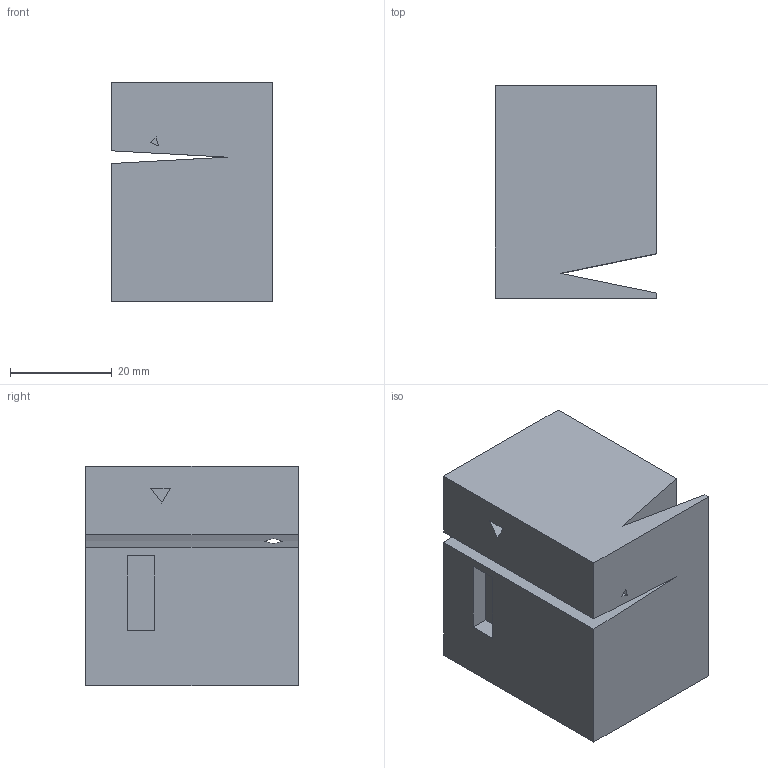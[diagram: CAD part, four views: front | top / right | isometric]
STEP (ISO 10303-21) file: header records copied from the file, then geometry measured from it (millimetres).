
FILE_DESCRIPTION(('Open CASCADE Model'),'2;1');
FILE_NAME('Open CASCADE Shape Model','2021-05-06T14:23:31',('Author'),( 'Open CASCADE'),'Open CASCADE STEP processor 7.4','Open CASCADE 7.4' ,'Unknown');
FILE_SCHEMA(('AUTOMOTIVE_DESIGN { 1 0 10303 214 1 1 1 1 }'));
Length unit declared in the file: millimetre
Products named in the file (1): Open CASCADE STEP translator 7.4 40
Bounding box: 31.8 x 41.77 x 43.05 mm (x, y, z)
Volume: 52242.8 mm3; surface area: 12329.7 mm2
Topology: 1 solids, 1 shells, 39 faces, 103 edges, 68 vertices
Faces by surface type: plane 34, cylinder 3, torus 2
Entity records: 2524 total; most frequent: CARTESIAN_POINT 439, DIRECTION 379, LINE 275, VECTOR 275, ORIENTED_EDGE 206, PCURVE 206, DEFINITIONAL_REPRESENTATION 206, EDGE_CURVE 103
